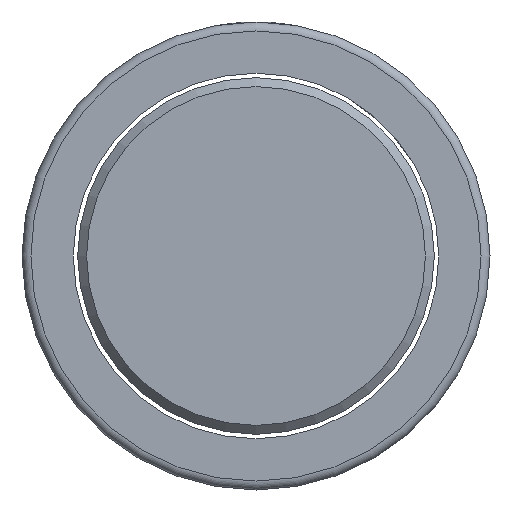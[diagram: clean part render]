
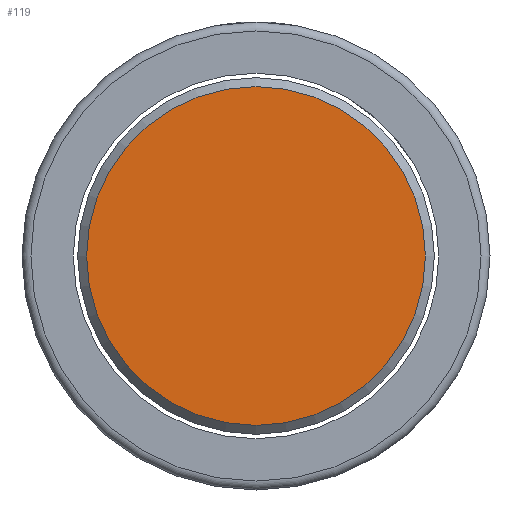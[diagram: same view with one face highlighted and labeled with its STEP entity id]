
A CAD part, left-side view. The second image highlights one B-rep face of the part: STEP entity #119.
In plain terms, the highlighted planar face has unit normal (-1, 0, 0).
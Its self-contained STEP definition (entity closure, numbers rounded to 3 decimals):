
#17 = FACE_OUTER_BOUND ( 'NONE', #376, .T. ) ;
#99 = CIRCLE ( 'NONE', #665, 38. ) ;
#119 = ADVANCED_FACE ( 'NONE', ( #17 ), #895, .F. ) ;
#137 = CARTESIAN_POINT ( 'NONE',  ( -180., 0., -38. ) ) ;
#240 = DIRECTION ( 'NONE',  ( 1., 0., 0. ) ) ;
#308 = ORIENTED_EDGE ( 'NONE', *, *, #316, .T. ) ;
#316 = EDGE_CURVE ( 'NONE', #860, #860, #99, .T. ) ;
#376 = EDGE_LOOP ( 'NONE', ( #308 ) ) ;
#449 = DIRECTION ( 'NONE',  ( 0., 0., -1. ) ) ;
#506 = CARTESIAN_POINT ( 'NONE',  ( -180., 0., 0. ) ) ;
#514 = DIRECTION ( 'NONE',  ( 0., 1., 0. ) ) ;
#519 = CARTESIAN_POINT ( 'NONE',  ( -180., 20., 0. ) ) ;
#665 = AXIS2_PLACEMENT_3D ( 'NONE', #506, #807, #449 ) ;
#759 = AXIS2_PLACEMENT_3D ( 'NONE', #519, #240, #514 ) ;
#807 = DIRECTION ( 'NONE',  ( -1., 0., 0. ) ) ;
#860 = VERTEX_POINT ( 'NONE', #137 ) ;
#895 = PLANE ( 'NONE',  #759 ) ;
